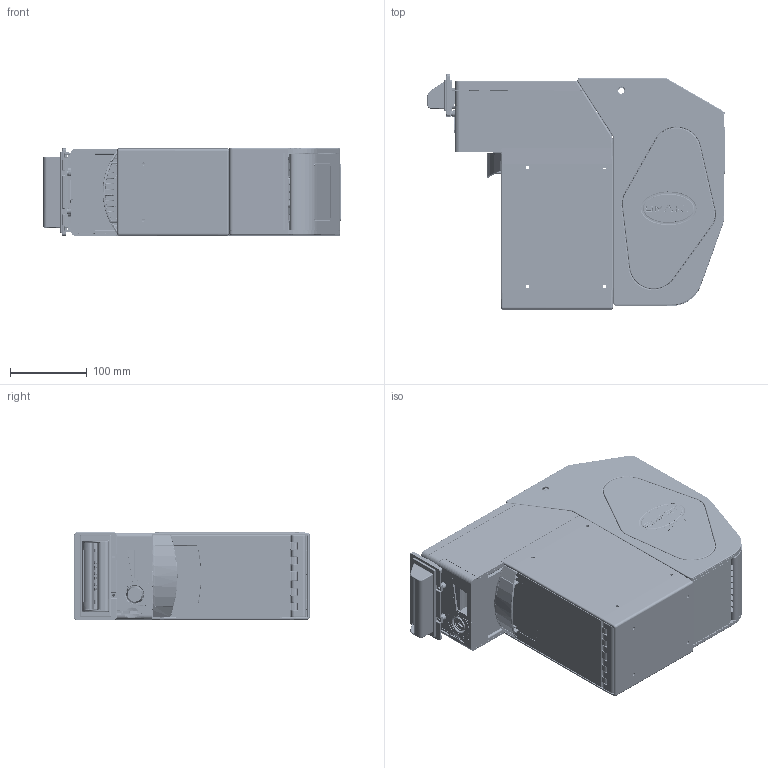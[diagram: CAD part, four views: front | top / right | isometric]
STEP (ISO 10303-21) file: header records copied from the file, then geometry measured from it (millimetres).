
FILE_DESCRIPTION(/* description */ (''),/* implementation_level */ '2;1');
FILE_NAME(/* name */ 'NV200_500n_86mm_payoutV1.5.stp',/* time_stamp */ '2016-02-16T12:16:58+00:00',/* author */ (''),/* organization */ (''),/* preprocessor_version */ 'ST-DEVELOPER v14',/* originating_system */ 'SIEMENS PLM Software NX 8.0',/* authorisation */ '');
FILE_SCHEMA (('AUTOMOTIVE_DESIGN { 1 0 10303 214 3 1 1 1 }'));
Products named in the file (1): rkea147018F9n20o
Bounding box: 387.87 x 306.71 x 114.64 mm (x, y, z)
Volume: 1764500.3 mm3; surface area: 1424185.7 mm2
Topology: 27 solids, 28 shells, 13873 faces, 37217 edges, 22990 vertices
Faces by surface type: plane 6883, cylinder 4110, bspline 1497, cone 566, sphere 464, extrusion 197, torus 156
Full cylindrical faces by diameter (mm): 2.3 x17, 2.325 x1, 2.5 x7, 2.874 x1, 2.9 x2, 3 x8, 3.2 x25, 3.25 x2, 3.5 x10, 3.8 x1, 4 x14, 4.1 x10, 4.15 x1, 4.2 x18, 4.5 x4, 4.75 x2, 4.8 x2, 4.996 x2, 5 x3, 5.15 x1, 5.3 x4, 5.5 x19, 6 x24, 6.15 x2, 6.5 x9, 7 x4, 7.15 x1, 7.8 x1, 8 x5, 8.15 x2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
Entity records: 479231 total; most frequent: CARTESIAN_POINT 139811, ORIENTED_EDGE 72482, DIRECTION 66178, EDGE_CURVE 36241, VERTEX_POINT 22962, VECTOR 22776, LINE 22579, AXIS2_PLACEMENT_3D 21701
